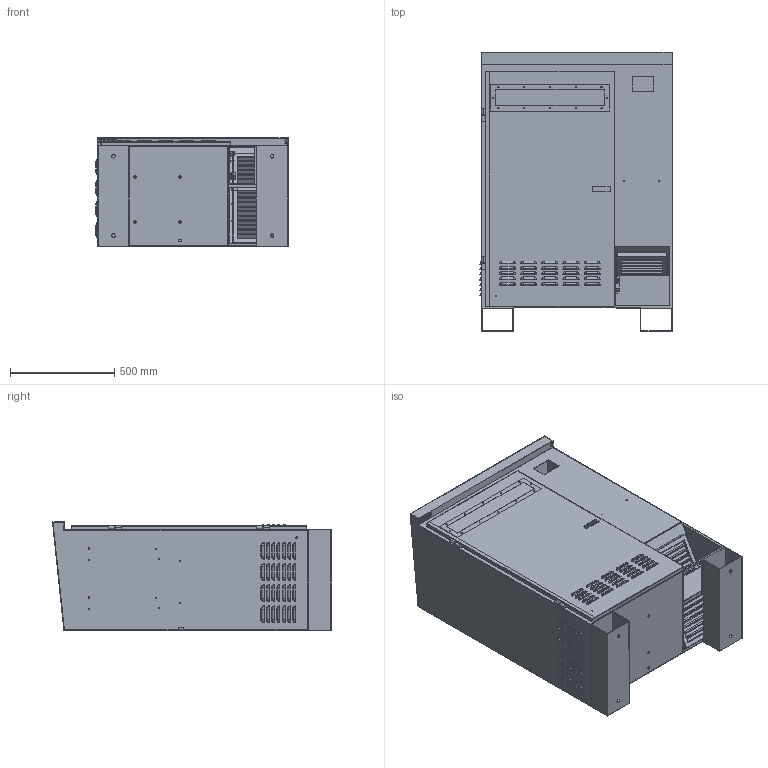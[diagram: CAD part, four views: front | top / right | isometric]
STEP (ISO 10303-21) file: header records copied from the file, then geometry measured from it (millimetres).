
FILE_DESCRIPTION (( 'STEP AP214' ), '1' );
FILE_NAME ('9-0606.STEP', '2019-02-27T15:42:41', ( '' ), ( '' ), 'SwSTEP 2.0', 'SolidWorks 2017', '' );
FILE_SCHEMA (( 'AUTOMOTIVE_DESIGN' ));
Length unit declared in the file: inch
Products named in the file (1): 9-0606
Bounding box: 922.06 x 1339.93 x 521.01 mm (x, y, z)
Surface area: 9731840.4 mm2 (no closed solid volume)
Topology: 0 solids, 111 shells, 779 faces, 4140 edges, 3317 vertices
Faces by surface type: plane 364, cylinder 176, bspline 142, sphere 68, torus 15, cone 14
Entity records: 58750 total; most frequent: CARTESIAN_POINT 17038, DIRECTION 6302, ORIENTED_EDGE 5484, EDGE_CURVE 4138, VERTEX_POINT 3317, VECTOR 2132, LINE 2132, AXIS2_PLACEMENT_3D 2085
